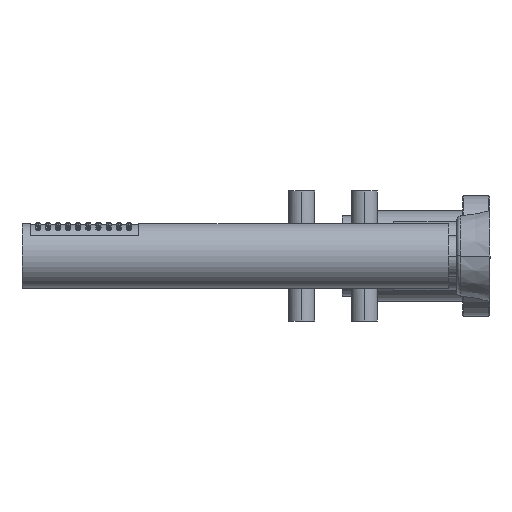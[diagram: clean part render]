
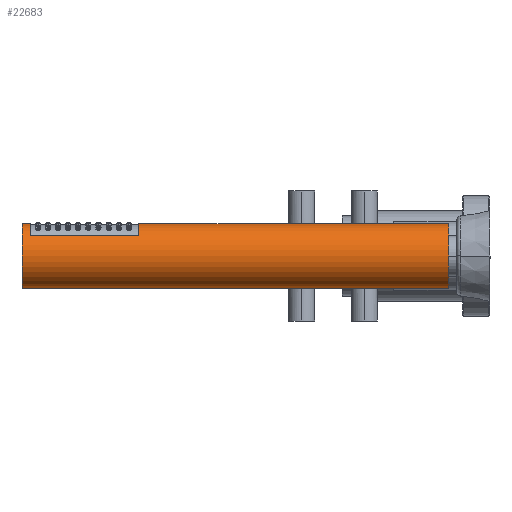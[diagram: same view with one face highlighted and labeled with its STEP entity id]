
A CAD part, left-side view. The second image highlights one B-rep face of the part: STEP entity #22683.
In plain terms, the highlighted cylindrical face has radius 16 mm (diameter 32 mm), a partial arc.
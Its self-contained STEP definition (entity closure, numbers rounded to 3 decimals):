
#18320=CARTESIAN_POINT('',(-450.,228.5,0.));
#18321=DIRECTION('',(0.,1.,0.));
#18322=DIRECTION('',(-0.766,0.,0.643));
#18323=AXIS2_PLACEMENT_3D('',#18320,#18321,#18322);
#18343=DIRECTION('',(0.,-1.,0.));
#18344=VECTOR('',#18343,54.);
#18345=CARTESIAN_POINT('',(-462.257,228.5,10.285));
#18346=LINE('',#18345,#18344);
#18347=DIRECTION('',(0.,-1.,0.));
#18348=VECTOR('',#18347,154.);
#18349=CARTESIAN_POINT('',(-450.,174.5,16.));
#18350=LINE('',#18349,#18348);
#18351=DIRECTION('',(0.,-1.,0.));
#18352=VECTOR('',#18351,4.);
#18353=CARTESIAN_POINT('',(-450.,232.5,16.));
#18354=LINE('',#18353,#18352);
#18355=CARTESIAN_POINT('',(-450.,174.5,0.));
#18356=DIRECTION('',(0.,-1.,0.));
#18357=DIRECTION('',(0.,0.,1.));
#18358=AXIS2_PLACEMENT_3D('',#18355,#18356,#18357);
#18378=DIRECTION('',(0.,-1.,0.));
#18379=VECTOR('',#18378,212.);
#18380=CARTESIAN_POINT('',(-450.,232.5,-16.));
#18381=LINE('',#18380,#18379);
#18386=CARTESIAN_POINT('',(-450.,232.5,0.));
#18387=DIRECTION('',(0.,-1.,0.));
#18388=DIRECTION('',(0.,0.,1.));
#18389=AXIS2_PLACEMENT_3D('',#18386,#18387,#18388);
#18396=CARTESIAN_POINT('',(-450.,20.5,0.));
#18397=DIRECTION('',(0.,1.,0.));
#18398=DIRECTION('',(0.,0.,-1.));
#18399=AXIS2_PLACEMENT_3D('',#18396,#18397,#18398);
#21844=CARTESIAN_POINT('',(-462.257,228.5,10.285));
#21845=CARTESIAN_POINT('',(-450.,228.5,16.));
#21846=VERTEX_POINT('',#21844);
#21847=VERTEX_POINT('',#21845);
#21850=CARTESIAN_POINT('',(-462.257,174.5,10.285));
#21851=VERTEX_POINT('',#21850);
#21852=CARTESIAN_POINT('',(-450.,174.5,16.));
#21853=VERTEX_POINT('',#21852);
#21854=CARTESIAN_POINT('',(-450.,20.5,16.));
#21855=VERTEX_POINT('',#21854);
#21856=CARTESIAN_POINT('',(-450.,20.5,-16.));
#21857=VERTEX_POINT('',#21856);
#21858=CARTESIAN_POINT('',(-450.,232.5,-16.));
#21859=VERTEX_POINT('',#21858);
#21860=CARTESIAN_POINT('',(-450.,232.5,16.));
#21861=VERTEX_POINT('',#21860);
#22661=CARTESIAN_POINT('',(-450.,20.5,0.));
#22662=DIRECTION('',(0.,1.,0.));
#22663=DIRECTION('',(0.,0.,-1.));
#22664=AXIS2_PLACEMENT_3D('',#22661,#22662,#22663);
#22665=CYLINDRICAL_SURFACE('',#22664,16.);
#22666=ORIENTED_EDGE('',*,*,#22649,.F.);
#22668=ORIENTED_EDGE('',*,*,#22667,.T.);
#22670=ORIENTED_EDGE('',*,*,#22669,.F.);
#22672=ORIENTED_EDGE('',*,*,#22671,.T.);
#22674=ORIENTED_EDGE('',*,*,#22673,.F.);
#22676=ORIENTED_EDGE('',*,*,#22675,.F.);
#22678=ORIENTED_EDGE('',*,*,#22677,.F.);
#22680=ORIENTED_EDGE('',*,*,#22679,.T.);
#22681=EDGE_LOOP('',(#22666,#22668,#22670,#22672,#22674,#22676,#22678,#22680));
#22682=FACE_OUTER_BOUND('',#22681,.F.);
#22683=ADVANCED_FACE('',(#22682),#22665,.T.);
#18324=CIRCLE('',#18323,16.);
#18359=CIRCLE('',#18358,16.);
#18390=CIRCLE('',#18389,16.);
#18400=CIRCLE('',#18399,16.);
#22649=EDGE_CURVE('',#21846,#21847,#18324,.T.);
#22667=EDGE_CURVE('',#21846,#21851,#18346,.T.);
#22669=EDGE_CURVE('',#21853,#21851,#18359,.T.);
#22671=EDGE_CURVE('',#21853,#21855,#18350,.T.);
#22673=EDGE_CURVE('',#21857,#21855,#18400,.T.);
#22675=EDGE_CURVE('',#21859,#21857,#18381,.T.);
#22677=EDGE_CURVE('',#21861,#21859,#18390,.T.);
#22679=EDGE_CURVE('',#21861,#21847,#18354,.T.);
